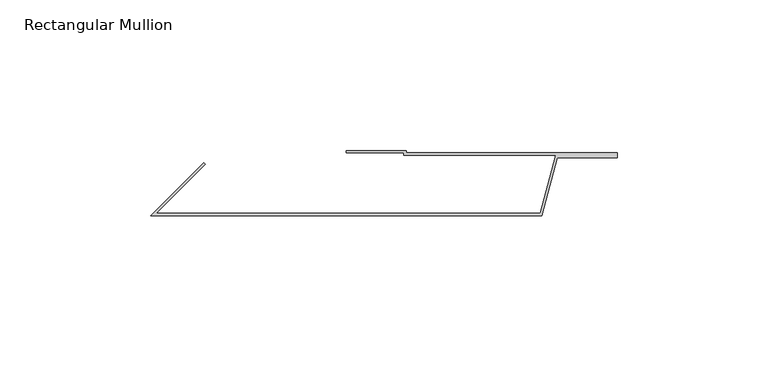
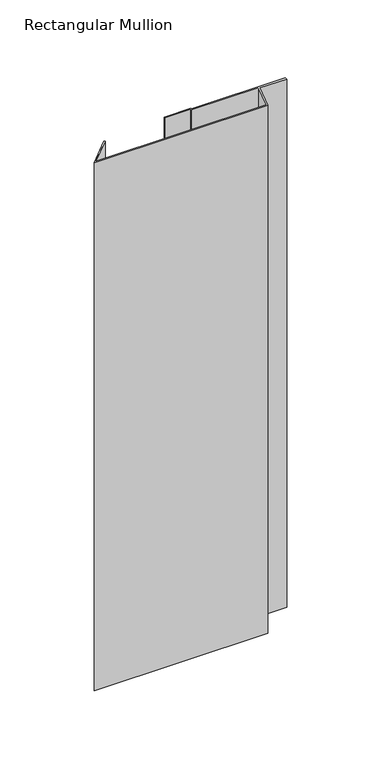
"""IFC4 building model written with IfcOpenShell, lengths in millimetres: member geometry, Rectangular Mullion : TE-V-01_02_Joint flashing."""

from ifc_helpers import new_model, si_unit, frame, origin, place, context, project, spatial, polyline, outline, extrude, source, transform, mapped, element, save


def rectangular_mullion_ee75781d(model_context):
    return source(origin(), model_context, "Body", "SweptSolid", [
        extrude(outline(polyline([(0.0, 0.0), (0.0, -0.8), (70.1186468, -0.8), (70.1186468, -2.4), (50.1763809, -2.4), (45.0, -21.7185165), (-85.0, -21.7185165), (-67.3223305, -4.040847), (-66.756645, -4.6065324), (-83.0686292, -20.9185165), (44.3861384, -20.9185165), (49.5625193, -1.6), (-0.8, -1.6), (-0.8, -0.8), (-20.0, -0.8), (-20.0, 0.0), (0.0, 0.0)])), frame((0.0, 0.0, -417.4515276), z_axis=(0.0, 0.0, 1.0), x_axis=(1.0, 0.0, 0.0)), (0.0, 0.0, 1.0), 417.4515276),
    ])


if __name__ == "__main__":
    model = new_model("IFC4")
    model_context = context("Model", 3, world=origin())
    ifc_project = project(units=[si_unit("LENGTHUNIT", "METRE", prefix="MILLI")], contexts=[model_context])
    site = spatial("IfcSite", under=ifc_project)
    building = spatial("IfcBuilding", under=site)
    placement = place(None, origin())
    rectangular_mullion_shape = rectangular_mullion_ee75781d(model_context)
    element("IfcMember", 1, ObjectType="Rectangular Mullion : TE-V-01_02_Joint flashing", at=placement, inside=building, context=model_context, shape_type="MappedRepresentation", body=[
        mapped(rectangular_mullion_shape, transform((0.0, 0.0, 0.0), x_axis=(1.0, 0.0, 0.0), y_axis=(0.0, 1.0, 0.0), z_axis=(0.0, 0.0, 1.0))),
    ])
    save(model, "model.ifc")
